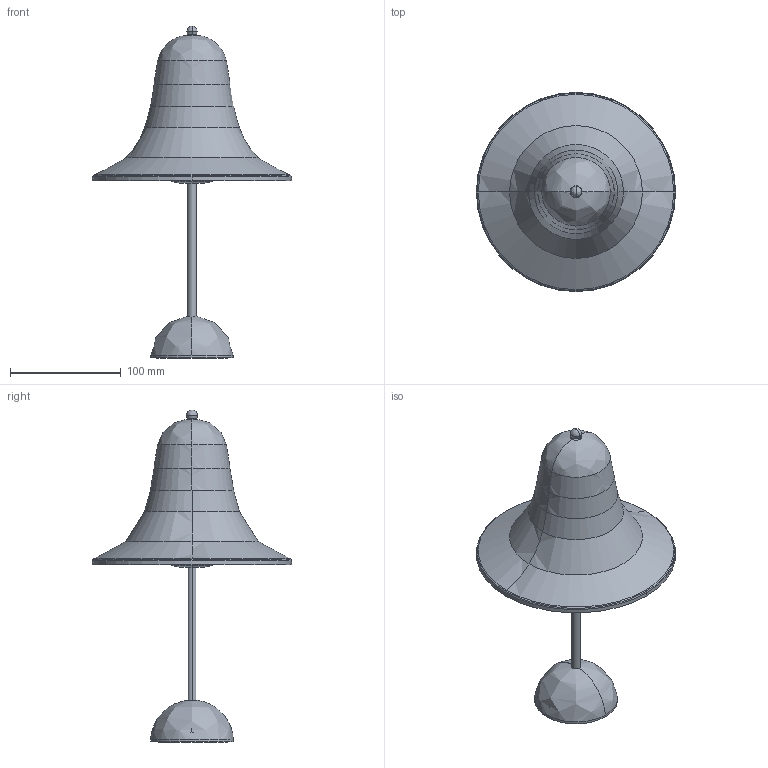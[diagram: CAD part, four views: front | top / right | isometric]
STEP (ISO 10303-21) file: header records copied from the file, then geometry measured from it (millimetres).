
FILE_DESCRIPTION(/* description */ (''),/* implementation_level */ '2;1');
FILE_NAME(/* name */ 'Verpan_Pantop_Portable_Lamp_stp',/* time_stamp */ '2025-03-19T13:03:43+01:00',/* author */ (''),/* organization */ (''),/* preprocessor_version */ 'ST-DEVELOPER v19.2',/* originating_system */ 'Rhino 8.13',/* authorisation */ '');
FILE_SCHEMA (('CONFIG_CONTROL_DESIGN'));
Length unit declared in the file: millimetre
Products named in the file (27): Document; PRT0036.stp; PRT0015.stp; PRT0019.stp; PRT0017.stp; PRT0014.stp; PRT0022.stp; 019_5.stp; PRT0029.stp; PRT0035.stp; PRT0043.stp; PRT0006.stp; PRT0044.stp; PRT0018.stp; PRT0033.stp; PRT0020.stp; PRT0030.stp; PRT0048.stp; PRT0016.stp; PRT0032.stp; PRT0009.stp; PRT0034.stp; PRT0045.stp; Block 02; PRT0021.stp; PRT0031.stp; PRT0008.stp
Bounding box: 180 x 180 x 299.96 mm (x, y, z)
Volume: 200539.4 mm3; surface area: 199684.9 mm2
Topology: 17 solids, 27 shells, 1012 faces, 2656 edges, 1714 vertices
Faces by surface type: bspline 601, cylinder 221, plane 190
Entity records: 50993 total; most frequent: CARTESIAN_POINT 29454, ORIENTED_EDGE 5248, EDGE_CURVE 2644, B_SPLINE_CURVE_WITH_KNOTS 2186, VERTEX_POINT 1714, DIRECTION 1479, EDGE_LOOP 1093, ADVANCED_FACE 1012
